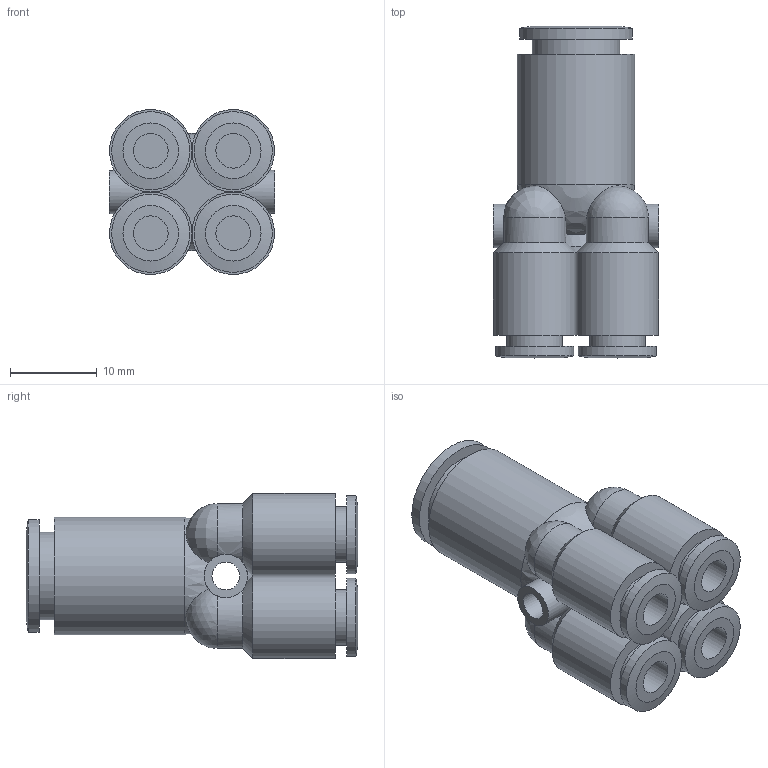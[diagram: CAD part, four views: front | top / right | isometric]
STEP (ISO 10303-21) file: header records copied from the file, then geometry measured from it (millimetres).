
FILE_DESCRIPTION((''),'2;1');
FILE_NAME('C:\Documents and Settings\rivolro1\Documenti\copia di Raccordi\PLASTICA\T24XXXX\T240408.stp','2007-11-02T15:05:14',('Rivolro1'),(''),'Autodesk Inventor 2008','Autodesk Inventor 2008','');
FILE_SCHEMA(('AUTOMOTIVE_DESIGN { 1 0 10303 214 1 1 1 1 }'));
Length unit declared in the file: millimetre
Products named in the file (1): T240408
Bounding box: 19 x 38.2 x 19 mm (x, y, z)
Volume: 5998.8 mm3; surface area: 4694.4 mm2
Topology: 1 solids, 1 shells, 74 faces, 180 edges, 110 vertices
Faces by surface type: bspline 27, cylinder 22, plane 15, cone 7, sphere 3
Full cylindrical faces by diameter (mm): 4 x2, 5 x2, 6.4 x2, 8 x1, 9 x2, 10.1 x1, 13 x1, 13.5 x1
Entity records: 2638 total; most frequent: CARTESIAN_POINT 1079, DIRECTION 294, ORIENTED_EDGE 286, EDGE_CURVE 143, AXIS2_PLACEMENT_3D 139, EDGE_LOOP 116, VERTEX_POINT 103, CIRCLE 91
